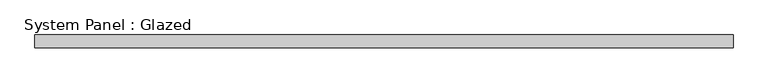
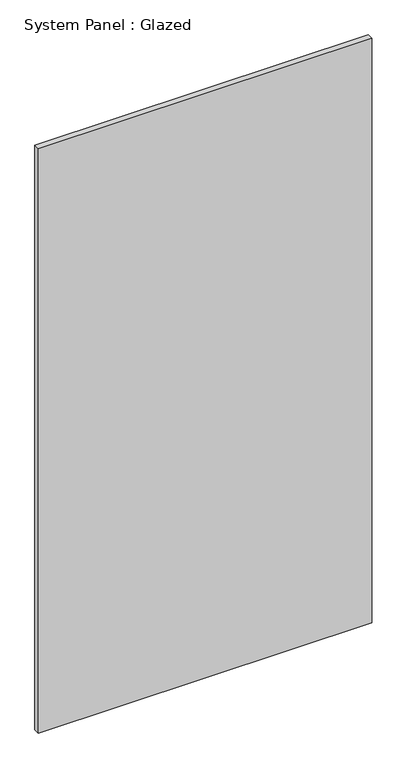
"""IFC4 building model written with IfcOpenShell, lengths in millimetres: plate geometry, System Panel : Glazed."""

from ifc_helpers import new_model, si_unit, origin, origin_with_axes, place, context, project, spatial, polyline, outline, extrude, source, transform, mapped, element, save


def system_panel_glazed_53bade5f(model_context):
    return source(origin(), model_context, "Body", "SweptSolid", [
        extrude(outline(polyline([(694.2581768, 19.05), (-694.2581768, 19.05), (-694.2581768, 44.45), (694.2581768, 44.45), (694.2581768, 19.05)])), origin_with_axes(), (0.0, 0.0, 1.0), 2573.8666667),
    ])


if __name__ == "__main__":
    model = new_model("IFC4")
    model_context = context("Model", 3, world=origin())
    ifc_project = project(units=[si_unit("LENGTHUNIT", "METRE", prefix="MILLI")], contexts=[model_context])
    site = spatial("IfcSite", under=ifc_project)
    building = spatial("IfcBuilding", under=site)
    placement = place(None, origin())
    system_panel_glazed_shape = system_panel_glazed_53bade5f(model_context)
    element("IfcPlate", 1, ObjectType="System Panel : Glazed", at=placement, inside=building, context=model_context, shape_type="MappedRepresentation", body=[
        mapped(system_panel_glazed_shape, transform((0.0, 0.0, 0.0), x_axis=(1.0, 0.0, 0.0), y_axis=(0.0, 1.0, 0.0), z_axis=(0.0, 0.0, 1.0))),
    ])
    save(model, "model.ifc")
